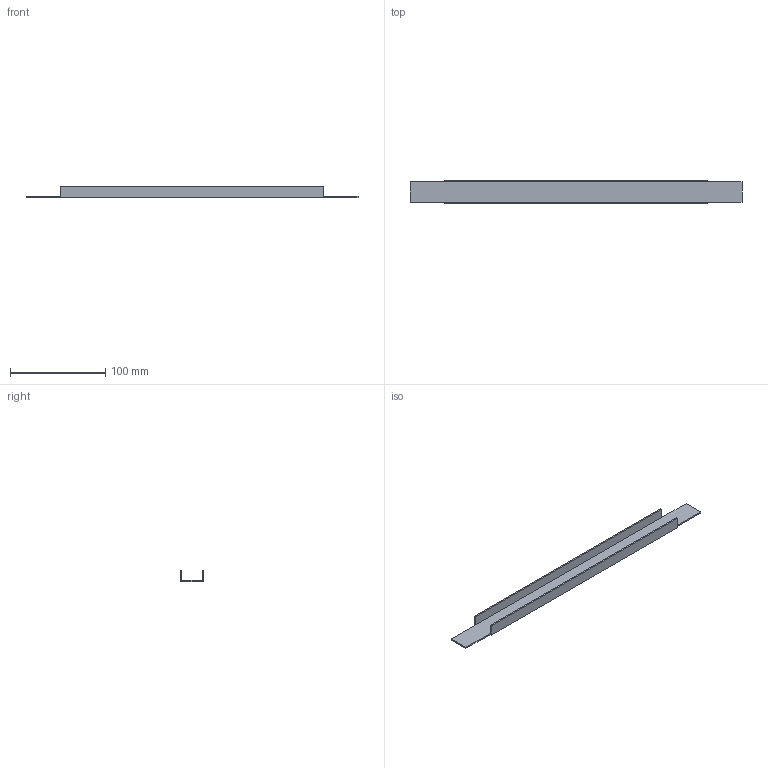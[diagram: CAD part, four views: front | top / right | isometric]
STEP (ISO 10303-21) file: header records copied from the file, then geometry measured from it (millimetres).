
FILE_DESCRIPTION( ( 'STEP AP214' ), '1' );
FILE_NAME( 'p:/temp/worker_554/temp/exporttempdir_136_408_9azIv/format_0/DHP040(0).stp', '2020-10-01T11:40:06', ( 'License CC BY-ND 4.0' ), ( 'CADENAS' ), ' ', 'PARTsolutions', ' ' );
FILE_SCHEMA( ( 'AUTOMOTIVE_DESIGN { 1 0 10303 214 1 1 1 1 }' ) );
Length unit declared in the file: millimetre
Products named in the file (1): _DHP040(0)
Bounding box: 348 x 24.5 x 12 mm (x, y, z)
Volume: 21159 mm3; surface area: 29392.5 mm2
Topology: 1 solids, 1 shells, 18 faces, 44 edges, 28 vertices
Faces by surface type: plane 18
Entity records: 676 total; most frequent: CARTESIAN_POINT 91, ORIENTED_EDGE 88, DIRECTION 82, EDGE_CURVE 44, LINE 44, VECTOR 44, VERTEX_POINT 28, AXIS2_PLACEMENT_3D 19
